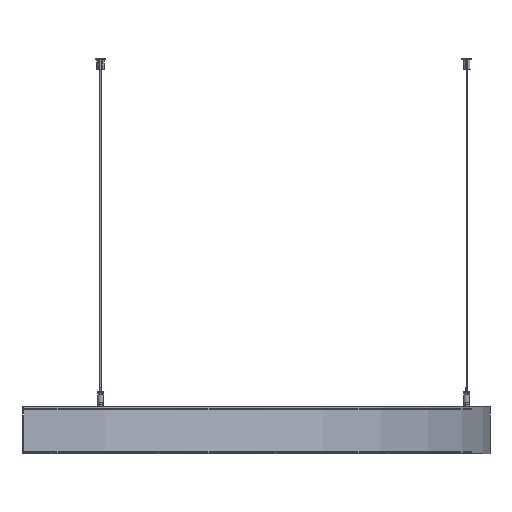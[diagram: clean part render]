
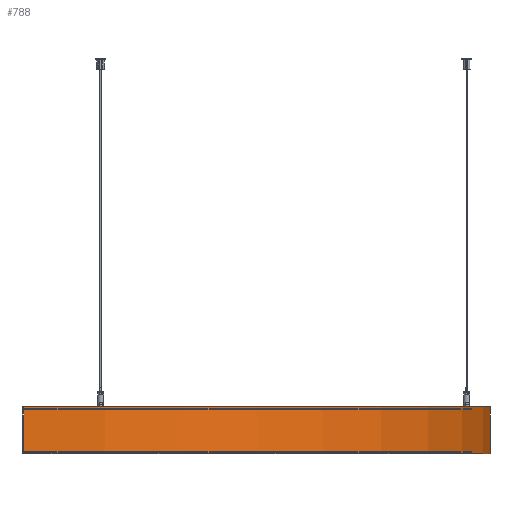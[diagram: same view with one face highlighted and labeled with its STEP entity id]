
A CAD part, front view. The second image highlights one B-rep face of the part: STEP entity #788.
In plain terms, the highlighted cylindrical face has radius 700 mm (diameter 1400 mm), a partial arc.
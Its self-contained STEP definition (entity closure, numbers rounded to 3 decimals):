
#788=ADVANCED_FACE('',(#899),#901,.T.);
#899=FACE_BOUND('',#900,.T.);
#900=EDGE_LOOP('',(#1493,#1494,#1495,#1496));
#901=CYLINDRICAL_SURFACE('',#902,700.);
#902=AXIS2_PLACEMENT_3D('',#903,#904,#905);
#903=CARTESIAN_POINT('',(0.,0.,0.));
#904=DIRECTION('',(0.,0.,1.));
#905=DIRECTION('',(0.,-1.,0.));
#1493=ORIENTED_EDGE('',*,*,#1768,.T.);
#1494=ORIENTED_EDGE('',*,*,#1769,.T.);
#1495=ORIENTED_EDGE('',*,*,#1759,.F.);
#1496=ORIENTED_EDGE('',*,*,#1767,.F.);
#1759=EDGE_CURVE('',#1899,#1901,#1902,.T.);
#1767=EDGE_CURVE('',#1913,#1899,#1915,.T.);
#1768=EDGE_CURVE('',#1913,#1916,#1917,.T.);
#1769=EDGE_CURVE('',#1916,#1901,#1918,.T.);
#1899=VERTEX_POINT('',#2144);
#1901=VERTEX_POINT('',#2148);
#1902=CIRCLE('',#2149,700.);
#1913=VERTEX_POINT('',#2176);
#1915=LINE('',#2180,#2181);
#1916=VERTEX_POINT('',#2183);
#1917=CIRCLE('',#2184,700.);
#1918=LINE('',#2188,#2189);
#2144=CARTESIAN_POINT('',(0.,-700.,70.));
#2148=CARTESIAN_POINT('',(0.,700.,70.));
#2149=AXIS2_PLACEMENT_3D('',#2150,#2151,#2152);
#2150=CARTESIAN_POINT('',(0.,0.,70.));
#2151=DIRECTION('',(0.,0.,1.));
#2152=DIRECTION('',(0.,-1.,0.));
#2176=CARTESIAN_POINT('',(0.,-700.,0.));
#2180=CARTESIAN_POINT('',(0.,-700.,0.));
#2181=VECTOR('',#2182,1.);
#2182=DIRECTION('',(0.,0.,1.));
#2183=CARTESIAN_POINT('',(0.,700.,0.));
#2184=AXIS2_PLACEMENT_3D('',#2185,#2186,#2187);
#2185=CARTESIAN_POINT('',(0.,0.,0.));
#2186=DIRECTION('',(0.,0.,1.));
#2187=DIRECTION('',(0.,-1.,0.));
#2188=CARTESIAN_POINT('',(0.,700.,0.));
#2189=VECTOR('',#2190,1.);
#2190=DIRECTION('',(0.,0.,1.));
